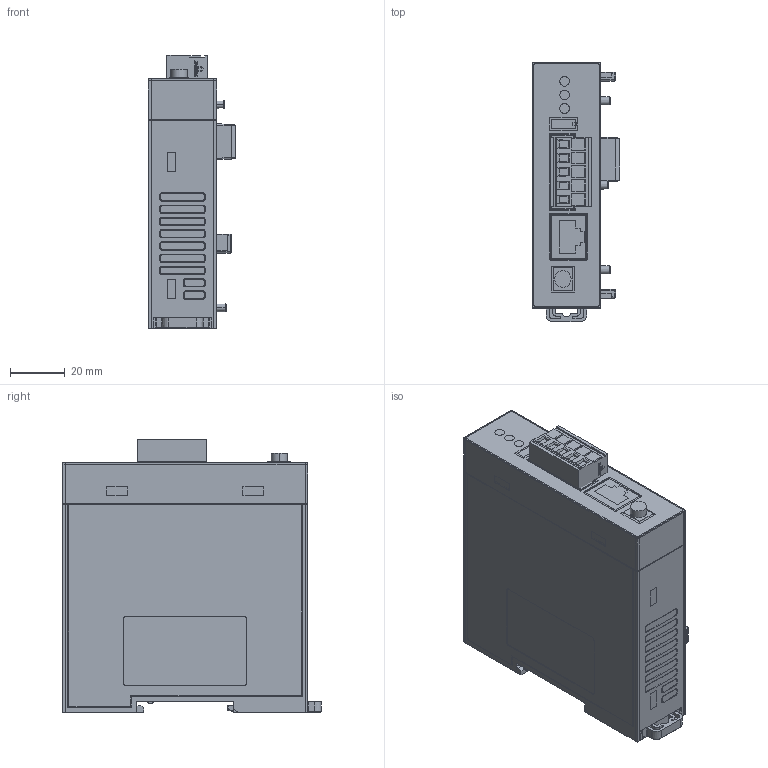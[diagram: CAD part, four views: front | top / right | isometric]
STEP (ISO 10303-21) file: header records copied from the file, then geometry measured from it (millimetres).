
FILE_DESCRIPTION((''),'2;1');
FILE_NAME('VC-RS485_ASM','2022-11-11T',('v3615'),(''),'CREO PARAMETRIC BY PTC INC, 2016260','CREO PARAMETRIC BY PTC INC, 2016260','');
FILE_SCHEMA(('AUTOMOTIVE_DESIGN { 1 0 10303 214 1 1 1 1 }'));
Products named in the file (17): PLC-LEFT_SKEL0001; VC-RS485-P001; VC-RS485-P002; VC-RS485-P003; VC-0808ENR-P005; VC-RS485-P_ASM; VC485LEM-V; DIP-SW; TERMINAL; RJ45; PE-TERMINAL; VC485LEM-V_ASM; 2EDGK-5_08-05P-14-00AH; VC1-RS485_20210118; VC-RS485-D_ASM; VC-RS485-RS-P001; VC-RS485_ASM
Assembly tree (16 placements, depth 4):
  VC-RS485_ASM
    PLC-LEFT_SKEL0001
    VC-RS485-P_ASM
      VC-RS485-P001
      VC-RS485-P002
      VC-RS485-P003
      VC-0808ENR-P005
    VC-RS485-D_ASM
      VC485LEM-V_ASM
        VC485LEM-V
        DIP-SW
        TERMINAL
        RJ45
        PE-TERMINAL
      2EDGK-5_08-05P-14-00AH
      VC1-RS485_20210118
    VC-RS485-RS-P001
Bounding box: 32 x 95 x 100.3 mm (x, y, z)
Volume: 265618.3 mm3; surface area: 117030.5 mm2
Topology: 13 solids, 13 shells, 2426 faces, 6706 edges, 4348 vertices
Faces by surface type: plane 1607, cylinder 593, bspline 90, cone 74, torus 42, sphere 20
Entity records: 104310 total; most frequent: CARTESIAN_POINT 20224, ORIENTED_EDGE 13412, DIRECTION 11812, EDGE_CURVE 6706, PRESENTATION_STYLE_ASSIGNMENT 5180, STYLED_ITEM 5147, CURVE_STYLE 5135, VECTOR 5094
